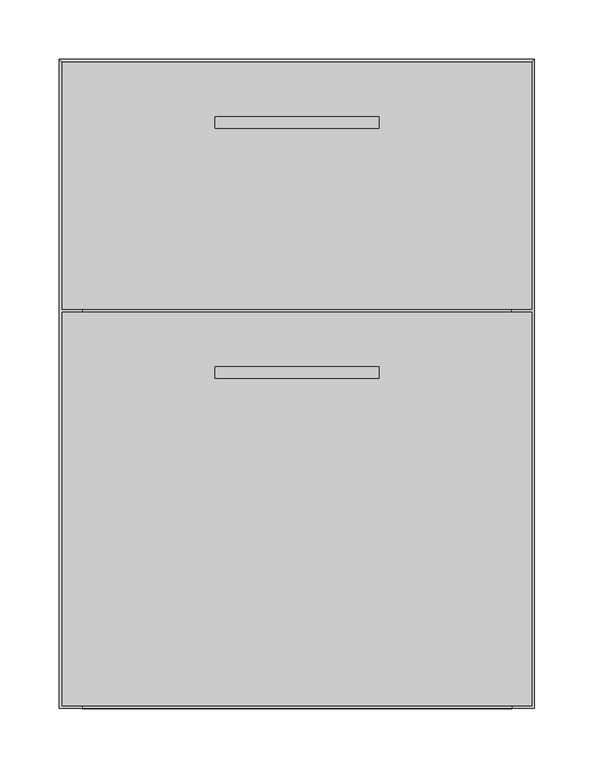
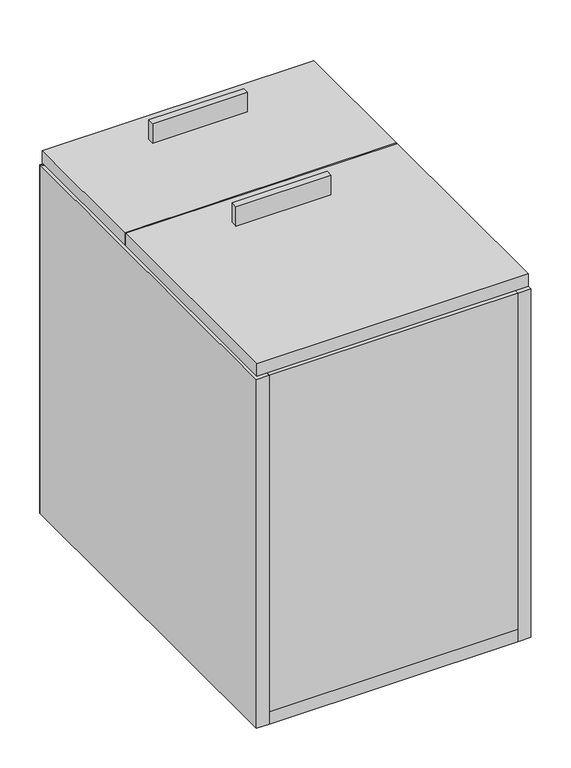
"""IFC4 building model written with IfcOpenShell, lengths in millimetres: proxy geometry, FOUNDATION^PEDESTAL_LETTER BF 22D23H-SOLID ASSEMBLY."""

from ifc_helpers import new_model, si_unit, frame, origin, origin_with_axes, place, context, project, spatial, polyline, outline, extrude, source, transform, mapped, element, save


def generic_models_d4c95853(model_context):
    return source(origin(), model_context, "Body", "SweptSolid", [
        extrude(outline(polyline([(269.08125, 277.8125), (130.96875, 277.8125), (130.96875, 287.3375), (269.08125, 287.3375), (269.08125, 277.8125)])), frame((0.0, 0.0, 558.8), z_axis=(0.0, 0.0, 1.0), x_axis=(1.0, 0.0, 0.0)), (0.0, 0.0, 1.0), 30.1625),
        extrude(outline(polyline([(269.08125, 488.15625), (130.96875, 488.15625), (130.96875, 497.68125), (269.08125, 497.68125), (269.08125, 488.15625)])), frame((0.0, 0.0, 558.8), z_axis=(0.0, 0.0, 1.0), x_axis=(1.0, 0.0, 0.0)), (0.0, 0.0, 1.0), 30.1625),
        extrude(outline(polyline([(400.05, 546.1), (200.025, 346.075), (0.0, 546.1), (400.05, 546.1)])), origin_with_axes(), (0.0, 0.0, 1.0), 536.575),
        extrude(outline(polyline([(0.0, 546.1), (19.05, 527.05), (19.05, 0.0), (0.0, 0.0), (0.0, 546.1)])), origin_with_axes(), (0.0, 0.0, 1.0), 536.575),
        extrude(outline(polyline([(397.66875, 335.75625), (2.38125, 335.75625), (2.38125, 543.71875), (397.66875, 543.71875), (397.66875, 335.75625)])), frame((0.0, 0.0, 539.75), z_axis=(0.0, 0.0, 1.0), x_axis=(1.0, 0.0, 0.0)), (0.0, 0.0, 1.0), 19.05),
        extrude(outline(polyline([(381.0, 19.05), (381.0, 0.0), (19.05, 0.0), (19.05, 19.05), (381.0, 19.05)])), frame((0.0, 0.0, 19.05), z_axis=(0.0, 0.0, 1.0), x_axis=(1.0, 0.0, 0.0)), (0.0, 0.0, 1.0), 517.525),
        extrude(outline(polyline([(2.38125, 2.38125), (2.38125, 333.375), (397.66875, 333.375), (397.66875, 2.38125), (2.38125, 2.38125)])), frame((0.0, 0.0, 539.75), z_axis=(0.0, 0.0, 1.0), x_axis=(1.0, 0.0, 0.0)), (0.0, 0.0, 1.0), 19.05),
        extrude(outline(polyline([(19.05, 527.05), (381.0, 527.05), (381.0, 0.0), (19.05, 0.0), (19.05, 527.05)])), origin_with_axes(), (0.0, 0.0, 1.0), 19.05),
        extrude(outline(polyline([(381.0, 527.05), (400.05, 546.1), (400.05, 0.0), (381.0, 0.0), (381.0, 527.05)])), origin_with_axes(), (0.0, 0.0, 1.0), 536.575),
    ])


if __name__ == "__main__":
    model = new_model("IFC4")
    model_context = context("Model", 3, world=origin())
    ifc_project = project(units=[si_unit("LENGTHUNIT", "METRE", prefix="MILLI")], contexts=[model_context])
    site = spatial("IfcSite", under=ifc_project)
    building = spatial("IfcBuilding", under=site)
    placement = place(None, origin())
    generic_models_shape = generic_models_d4c95853(model_context)
    element("IfcBuildingElementProxy", 1, Name="FOUNDATION^PEDESTAL_LETTER BF 22D23H-SOLID ASSEMBLY", ObjectType="FOUNDATION^PEDESTAL_LETTER BF 22D23H-SOLID ASSEMBLY", at=placement, inside=building, context=model_context, shape_type="MappedRepresentation", body=[
        mapped(generic_models_shape, transform((0.0, 0.0, 0.0), x_axis=(1.0, 0.0, 0.0), y_axis=(0.0, 1.0, 0.0), z_axis=(0.0, 0.0, 1.0))),
    ])
    save(model, "model.ifc")
